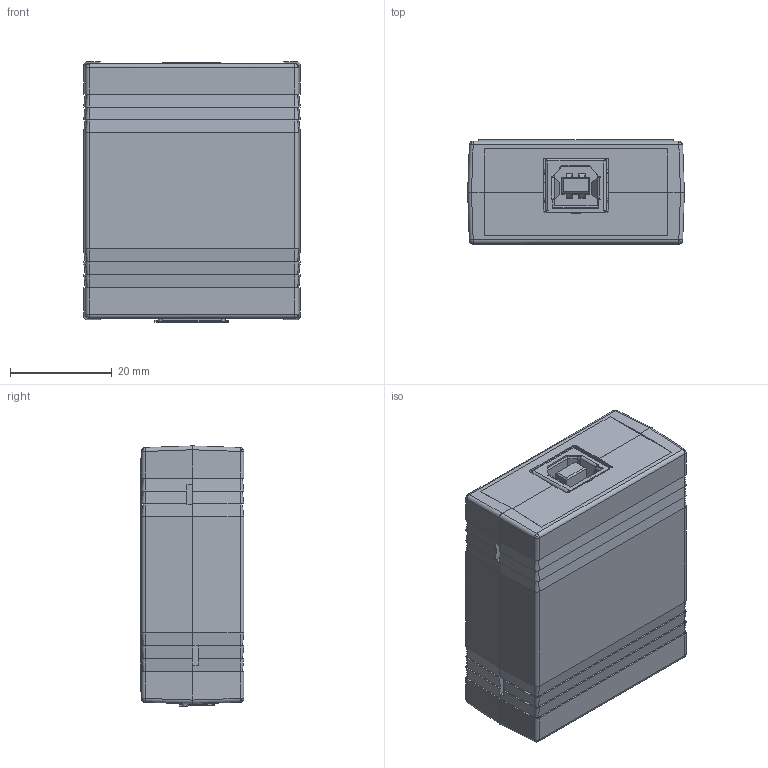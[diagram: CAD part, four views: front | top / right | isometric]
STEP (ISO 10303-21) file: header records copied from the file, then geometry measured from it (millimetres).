
FILE_DESCRIPTION (( 'STEP AP214' ), '1' );
FILE_NAME ('UH401.STEP', '2019-02-06T20:28:27', ( '' ), ( '' ), 'SwSTEP 2.0', 'SolidWorks 2016', '' );
FILE_SCHEMA (( 'AUTOMOTIVE_DESIGN' ));
Length unit declared in the file: inch
Products named in the file (12): 4921; _USBR_A_S_TH_s_2; 8579R1; 9629; 9629_b; _USBR_A_S_TH_b_4; 250-10544-00; UH401; 9629_t; USBR_A_S_S_O_TH; 9599UH40000; _USBR_A_S_TH_p_6
Assembly tree (11 placements, depth 4):
  UH401
    9629
      9629_b
      9629_t
    9599UH40000
      8579R1
      4921
      USBR_A_S_S_O_TH
        _USBR_A_S_TH_s_2
        _USBR_A_S_TH_b_4
        _USBR_A_S_TH_p_6
    250-10544-00
Bounding box: 42.67 x 20.42 x 51.23 mm (x, y, z)
Volume: 17724.1 mm3; surface area: 27384.5 mm2
Topology: 8 solids, 8 shells, 2109 faces, 6013 edges, 3906 vertices
Faces by surface type: plane 1588, cylinder 386, bspline 107, cone 28
Entity records: 73300 total; most frequent: CARTESIAN_POINT 15314, ORIENTED_EDGE 11972, DIRECTION 10481, EDGE_CURVE 5986, VECTOR 5003, LINE 5003, VERTEX_POINT 3906, AXIS2_PLACEMENT_3D 2739
